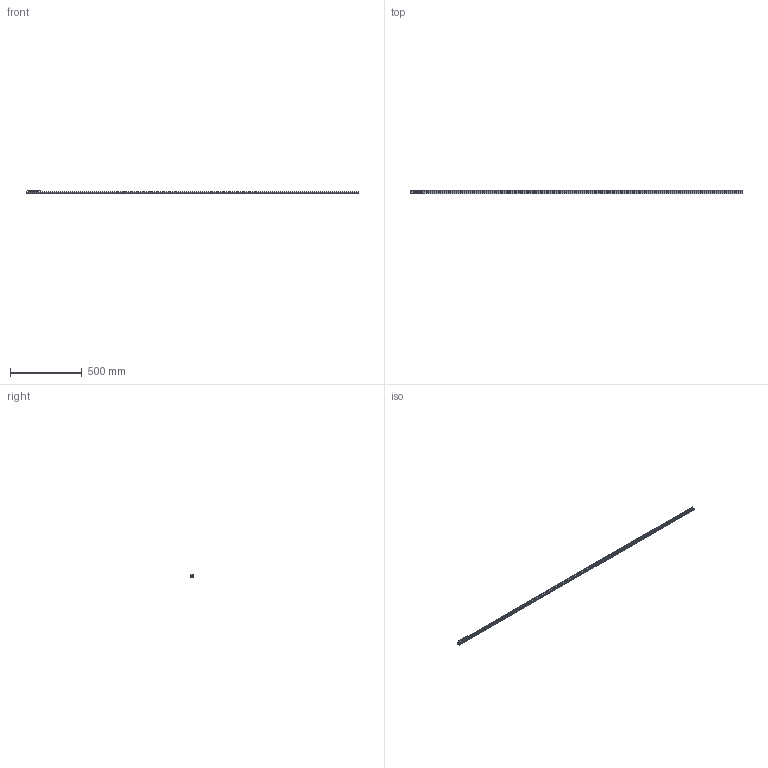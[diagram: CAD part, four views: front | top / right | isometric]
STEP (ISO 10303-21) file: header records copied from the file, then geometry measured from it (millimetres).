
FILE_DESCRIPTION( ( 'STEP AP214' ), '1' );
FILE_NAME( 'p:/temp/worker_23/temp/exporttempdir_82112_106_rKuOy/format_0/TEN26-2320-CEN26-92.stp', '2020-05-08T18:53:04', ( 'License CC BY-ND 4.0' ), ( 'CADENAS' ), ' ', 'PARTsolutions', ' ' );
FILE_SCHEMA( ( 'AUTOMOTIVE_DESIGN { 1 0 10303 214 1 1 1 1 }' ) );
Length unit declared in the file: millimetre
Products named in the file (6): TEN26-2320-CEN26-92; _TEN 26-2320; _CEN26-92_1; _RLN26(11.2_M5); _RLA26(11.2_M5); _LAN-26
Assembly tree (8 placements, depth 2):
  TEN26-2320-CEN26-92
    _TEN 26-2320
    _CEN26-92_1
    _RLN26(11.2_M5)  x2
    _RLA26(11.2_M5)
    _LAN-26  x3
Bounding box: 2320 x 25.96 x 22 mm (x, y, z)
Volume: 252912.6 mm3; surface area: 214067.3 mm2
Topology: 8 solids, 8 shells, 262 faces, 588 edges, 369 vertices
Faces by surface type: plane 131, cylinder 98, cone 24, bspline 9
Full cylindrical faces by diameter (mm): 2.5 x2, 4.134 x5, 4.5 x3, 5 x6, 6.5 x29, 9.3 x3, 11.2 x6, 11.6 x6, 15.7 x6, 16.7 x6
Entity records: 6476 total; most frequent: CARTESIAN_POINT 930, DIRECTION 886, ORIENTED_EDGE 650, AXIS2_PLACEMENT_3D 379, EDGE_LOOP 348, EDGE_CURVE 325, VERTEX_POINT 255, FACE_OUTER_BOUND 242
